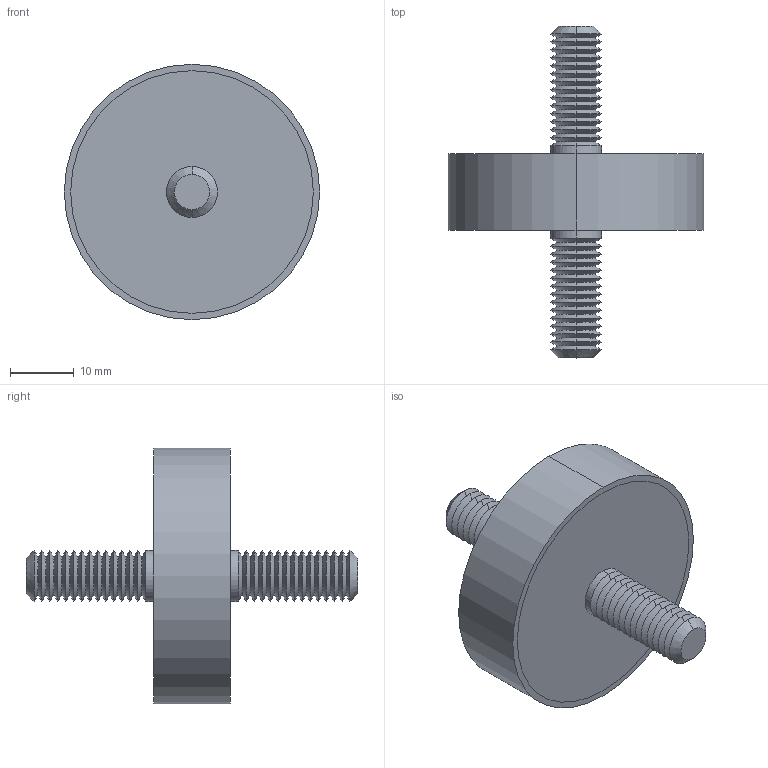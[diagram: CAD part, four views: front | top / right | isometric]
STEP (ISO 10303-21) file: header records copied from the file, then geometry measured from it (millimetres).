
FILE_DESCRIPTION (( 'STEP AP203' ), '1' );
FILE_NAME ('61040.W0401.step', '2019-09-24T22:34:38', ( '' ), ( '' ), 'SwSTEP 2.0', 'SolidWorks 2017', '' );
FILE_SCHEMA (( 'CONFIG_CONTROL_DESIGN' ));
Length unit declared in the file: millimetre
Products named in the file (4): Part2_61040.W0401; Part1_61040.W0401; 61040.W0401; Part3_61040.W0401
Assembly tree (3 placements, depth 2):
  61040.W0401
    Part1_61040.W0401
    Part2_61040.W0401
    Part3_61040.W0401
Bounding box: 40 x 52 x 40 mm (x, y, z)
Volume: 16621.9 mm3; surface area: 10402.5 mm2
Topology: 3 solids, 3 shells, 140 faces, 274 edges, 144 vertices
Faces by surface type: cone 116, cylinder 14, plane 10
Entity records: 3908 total; most frequent: DIRECTION 710, CARTESIAN_POINT 564, ORIENTED_EDGE 548, AXIS2_PLACEMENT_3D 290, EDGE_CURVE 274, VERTEX_POINT 144, CIRCLE 144, EDGE_LOOP 144
